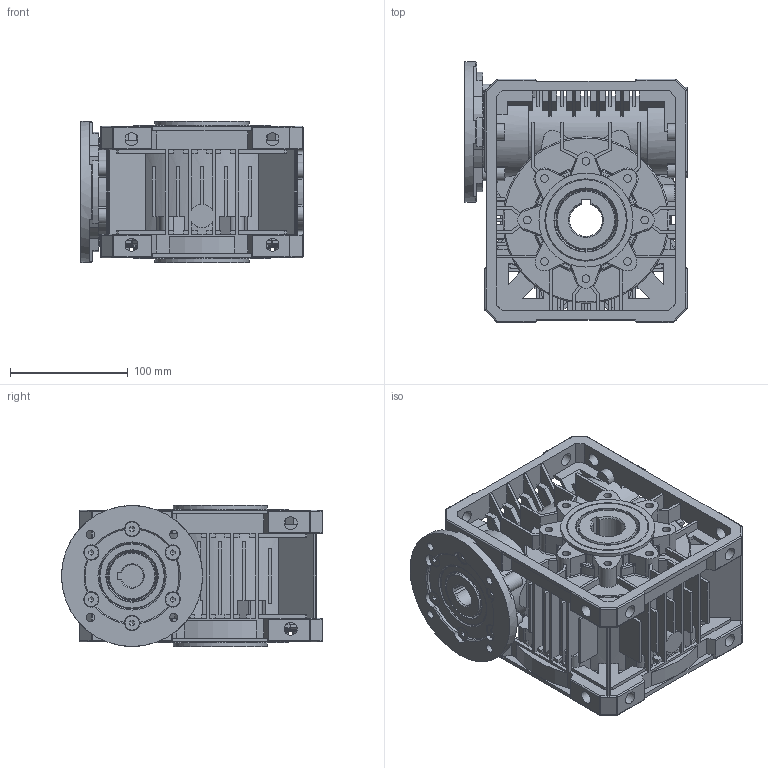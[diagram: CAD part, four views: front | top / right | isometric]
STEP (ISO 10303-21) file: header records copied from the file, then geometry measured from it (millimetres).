
FILE_DESCRIPTION((''),'2;1');
FILE_NAME('C:\Users\m.piscopiello.SITIRIDUTTORI\Desktop\FIGURINI VSF\FIGURINI U-MU 75\MU 75 PAM 80 B14.stp','2016-03-03T16:48:13',('m.piscopiello'),(''),'Autodesk Inventor 2012','Autodesk Inventor 2012','');
FILE_SCHEMA(('CONFIG_CONTROL_DESIGN'));
Length unit declared in the file: millimetre
Products named in the file (1): 3F021112
Bounding box: 189 x 222 x 120 mm (x, y, z)
Volume: 1229062.6 mm3; surface area: 473719.5 mm2
Topology: 23 solids, 23 shells, 2158 faces, 5742 edges, 3501 vertices
Faces by surface type: plane 1052, cylinder 601, torus 222, cone 99, bspline 95, sphere 89
Full cylindrical faces by diameter (mm): 4.917 x12, 5.719 x6, 6 x6, 6.5 x6, 6.647 x22, 7 x4, 8 x16, 8.5 x8, 11 x14, 12 x6, 13 x14, 40 x2, 43.75 x1, 45.438 x1, 50 x3, 53.75 x2, 54 x2, 55.438 x2, 56 x2, 58.875 x1, 62 x2, 66.6 x2, 68 x1, 70 x4, 80 x3, 120 x1, 134 x1
Entity records: 67338 total; most frequent: CARTESIAN_POINT 15021, DIRECTION 11053, ORIENTED_EDGE 10672, EDGE_CURVE 5336, AXIS2_PLACEMENT_3D 4040, VERTEX_POINT 3379, VECTOR 2973, LINE 2973
